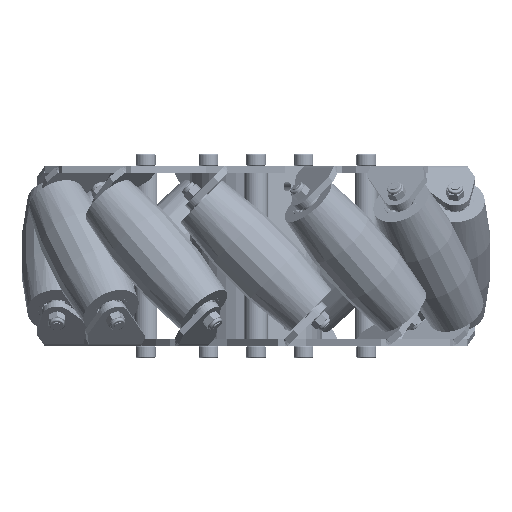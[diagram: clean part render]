
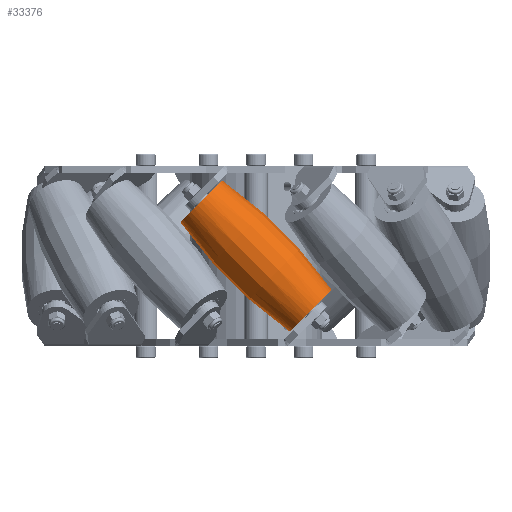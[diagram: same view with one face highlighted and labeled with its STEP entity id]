
A CAD part, front view. The second image highlights one B-rep face of the part: STEP entity #33376.
In plain terms, the highlighted face is a revolution surface.
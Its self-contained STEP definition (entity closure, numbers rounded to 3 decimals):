
#33245 = PLANE('',#33246);
#33246 = AXIS2_PLACEMENT_3D('',#33247,#33248,#33249);
#33247 = CARTESIAN_POINT('',(-23.688,94.,-23.688));
#33248 = DIRECTION('',(-0.707,0.,
    -0.707));
#33249 = DIRECTION('',(-0.707,0.,
    0.707));
#33282 = EDGE_CURVE('',#33283,#33285,#33287,.T.);
#33283 = VERTEX_POINT('',#33284);
#33284 = CARTESIAN_POINT('',(-32.736,86.,-14.64));
#33285 = VERTEX_POINT('',#33286);
#33286 = CARTESIAN_POINT('',(-14.64,86.,-32.736));
#33287 = SURFACE_CURVE('',#33288,(#33293,#33300),.PCURVE_S1.);
#33288 = CIRCLE('',#33289,12.796);
#33289 = AXIS2_PLACEMENT_3D('',#33290,#33291,#33292);
#33290 = CARTESIAN_POINT('',(-23.688,86.,-23.688));
#33291 = DIRECTION('',(-0.707,0.,
    -0.707));
#33292 = DIRECTION('',(-0.707,0.,
    0.707));
#33293 = PCURVE('',#33245,#33294);
#33294 = DEFINITIONAL_REPRESENTATION('',(#33295),#33299);
#33295 = CIRCLE('',#33296,12.796);
#33296 = AXIS2_PLACEMENT_2D('',#33297,#33298);
#33297 = CARTESIAN_POINT('',(0.,-8.));
#33298 = DIRECTION('',(1.,0.));
#33299 = ( GEOMETRIC_REPRESENTATION_CONTEXT(2) 
PARAMETRIC_REPRESENTATION_CONTEXT() REPRESENTATION_CONTEXT('2D SPACE',''
  ) );
#33300 = PCURVE('',#33301,#33312);
#33301 = SURFACE_OF_REVOLUTION('',#33302,#33309);
#33302 = B_SPLINE_CURVE_WITH_KNOTS('',5,(#33303,#33304,#33305,#33306,
    #33307,#33308),.UNSPECIFIED.,.F.,.F.,(6,6),(2.975,
    3.309),.PIECEWISE_BEZIER_KNOTS.);
#33303 = CARTESIAN_POINT('',(-14.64,86.,-32.736));
#33304 = CARTESIAN_POINT('',(-3.67,86.,-24.932));
#33305 = CARTESIAN_POINT('',(6.647,86.,-16.211));
#33306 = CARTESIAN_POINT('',(16.211,86.,-6.647));
#33307 = CARTESIAN_POINT('',(24.932,86.,3.67));
#33308 = CARTESIAN_POINT('',(32.736,86.,14.64));
#33309 = AXIS1_PLACEMENT('',#33310,#33311);
#33310 = CARTESIAN_POINT('',(0.,86.,0.)
  );
#33311 = DIRECTION('',(-0.707,0.,
    -0.707));
#33312 = DEFINITIONAL_REPRESENTATION('',(#33313),#33317);
#33313 = LINE('',#33314,#33315);
#33314 = CARTESIAN_POINT('',(3.142,2.975));
#33315 = VECTOR('',#33316,1.);
#33316 = DIRECTION('',(1.,0.));
#33317 = ( GEOMETRIC_REPRESENTATION_CONTEXT(2) 
PARAMETRIC_REPRESENTATION_CONTEXT() REPRESENTATION_CONTEXT('2D SPACE',''
  ) );
#33334 = SURFACE_OF_REVOLUTION('',#33335,#33342);
#33335 = B_SPLINE_CURVE_WITH_KNOTS('',5,(#33336,#33337,#33338,#33339,
    #33340,#33341),.UNSPECIFIED.,.F.,.F.,(6,6),(2.975,
    3.309),.PIECEWISE_BEZIER_KNOTS.);
#33336 = CARTESIAN_POINT('',(-14.64,86.,-32.736));
#33337 = CARTESIAN_POINT('',(-3.67,86.,-24.932));
#33338 = CARTESIAN_POINT('',(6.647,86.,-16.211));
#33339 = CARTESIAN_POINT('',(16.211,86.,-6.647));
#33340 = CARTESIAN_POINT('',(24.932,86.,3.67));
#33341 = CARTESIAN_POINT('',(32.736,86.,14.64));
#33342 = AXIS1_PLACEMENT('',#33343,#33344);
#33343 = CARTESIAN_POINT('',(0.,86.,0.)
  );
#33344 = DIRECTION('',(-0.707,0.,
    -0.707));
#33376 = ADVANCED_FACE('',(#33377),#33301,.F.);
#33377 = FACE_BOUND('',#33378,.F.);
#33378 = EDGE_LOOP('',(#33379,#33403,#33404,#33428));
#33379 = ORIENTED_EDGE('',*,*,#33380,.T.);
#33380 = EDGE_CURVE('',#33381,#33283,#33383,.T.);
#33381 = VERTEX_POINT('',#33382);
#33382 = CARTESIAN_POINT('',(14.64,86.,32.736));
#33383 = SURFACE_CURVE('',#33384,(#33389,#33396),.PCURVE_S1.);
#33384 = CIRCLE('',#33385,201.54);
#33385 = AXIS2_PLACEMENT_3D('',#33386,#33387,#33388);
#33386 = CARTESIAN_POINT('',(131.479,86.,-131.479));
#33387 = DIRECTION('',(0.,-1.,0.));
#33388 = DIRECTION('',(0.,0.,-1.));
#33389 = PCURVE('',#33301,#33390);
#33390 = DEFINITIONAL_REPRESENTATION('',(#33391),#33395);
#33391 = LINE('',#33392,#33393);
#33392 = CARTESIAN_POINT('',(3.142,7.069));
#33393 = VECTOR('',#33394,1.);
#33394 = DIRECTION('',(0.,-1.));
#33395 = ( GEOMETRIC_REPRESENTATION_CONTEXT(2) 
PARAMETRIC_REPRESENTATION_CONTEXT() REPRESENTATION_CONTEXT('2D SPACE',''
  ) );
#33396 = PCURVE('',#33334,#33397);
#33397 = DEFINITIONAL_REPRESENTATION('',(#33398),#33402);
#33398 = LINE('',#33399,#33400);
#33399 = CARTESIAN_POINT('',(3.142,7.069));
#33400 = VECTOR('',#33401,1.);
#33401 = DIRECTION('',(0.,-1.));
#33402 = ( GEOMETRIC_REPRESENTATION_CONTEXT(2) 
PARAMETRIC_REPRESENTATION_CONTEXT() REPRESENTATION_CONTEXT('2D SPACE',''
  ) );
#33403 = ORIENTED_EDGE('',*,*,#33282,.T.);
#33404 = ORIENTED_EDGE('',*,*,#33405,.F.);
#33405 = EDGE_CURVE('',#33406,#33285,#33408,.T.);
#33406 = VERTEX_POINT('',#33407);
#33407 = CARTESIAN_POINT('',(32.736,86.,14.64));
#33408 = SURFACE_CURVE('',#33409,(#33414,#33421),.PCURVE_S1.);
#33409 = CIRCLE('',#33410,201.54);
#33410 = AXIS2_PLACEMENT_3D('',#33411,#33412,#33413);
#33411 = CARTESIAN_POINT('',(-131.479,86.,131.479));
#33412 = DIRECTION('',(0.,1.,0.));
#33413 = DIRECTION('',(0.,0.,1.));
#33414 = PCURVE('',#33301,#33415);
#33415 = DEFINITIONAL_REPRESENTATION('',(#33416),#33420);
#33416 = LINE('',#33417,#33418);
#33417 = CARTESIAN_POINT('',(6.283,5.498));
#33418 = VECTOR('',#33419,1.);
#33419 = DIRECTION('',(0.,-1.));
#33420 = ( GEOMETRIC_REPRESENTATION_CONTEXT(2) 
PARAMETRIC_REPRESENTATION_CONTEXT() REPRESENTATION_CONTEXT('2D SPACE',''
  ) );
#33421 = PCURVE('',#33334,#33422);
#33422 = DEFINITIONAL_REPRESENTATION('',(#33423),#33427);
#33423 = LINE('',#33424,#33425);
#33424 = CARTESIAN_POINT('',(0.,5.498));
#33425 = VECTOR('',#33426,1.);
#33426 = DIRECTION('',(0.,-1.));
#33427 = ( GEOMETRIC_REPRESENTATION_CONTEXT(2) 
PARAMETRIC_REPRESENTATION_CONTEXT() REPRESENTATION_CONTEXT('2D SPACE',''
  ) );
#33428 = ORIENTED_EDGE('',*,*,#33429,.F.);
#33429 = EDGE_CURVE('',#33381,#33406,#33430,.T.);
#33430 = SURFACE_CURVE('',#33431,(#33436,#33443),.PCURVE_S1.);
#33431 = CIRCLE('',#33432,12.796);
#33432 = AXIS2_PLACEMENT_3D('',#33433,#33434,#33435);
#33433 = CARTESIAN_POINT('',(23.688,86.,23.688));
#33434 = DIRECTION('',(-0.707,0.,
    -0.707));
#33435 = DIRECTION('',(-0.707,0.,
    0.707));
#33436 = PCURVE('',#33301,#33437);
#33437 = DEFINITIONAL_REPRESENTATION('',(#33438),#33442);
#33438 = LINE('',#33439,#33440);
#33439 = CARTESIAN_POINT('',(3.142,3.309));
#33440 = VECTOR('',#33441,1.);
#33441 = DIRECTION('',(1.,0.));
#33442 = ( GEOMETRIC_REPRESENTATION_CONTEXT(2) 
PARAMETRIC_REPRESENTATION_CONTEXT() REPRESENTATION_CONTEXT('2D SPACE',''
  ) );
#33443 = PCURVE('',#33444,#33449);
#33444 = PLANE('',#33445);
#33445 = AXIS2_PLACEMENT_3D('',#33446,#33447,#33448);
#33446 = CARTESIAN_POINT('',(23.688,94.,23.688));
#33447 = DIRECTION('',(0.707,0.,0.707
    ));
#33448 = DIRECTION('',(0.707,0.,-0.707
    ));
#33449 = DEFINITIONAL_REPRESENTATION('',(#33450),#33458);
#33450 = ( BOUNDED_CURVE() B_SPLINE_CURVE(2,(#33451,#33452,#33453,#33454
    ,#33455,#33456,#33457),.UNSPECIFIED.,.T.,.F.) 
B_SPLINE_CURVE_WITH_KNOTS((1,2,2,2,2,1),(-2.094,0.,
    2.094,4.189,6.283,8.378),
.UNSPECIFIED.) CURVE() GEOMETRIC_REPRESENTATION_ITEM() 
RATIONAL_B_SPLINE_CURVE((1.,0.5,1.,0.5,1.,0.5,1.)) REPRESENTATION_ITEM(
  '') );
#33451 = CARTESIAN_POINT('',(-12.796,-8.));
#33452 = CARTESIAN_POINT('',(-12.796,14.164));
#33453 = CARTESIAN_POINT('',(6.398,3.082));
#33454 = CARTESIAN_POINT('',(25.593,-8.));
#33455 = CARTESIAN_POINT('',(6.398,-19.082));
#33456 = CARTESIAN_POINT('',(-12.796,-30.164));
#33457 = CARTESIAN_POINT('',(-12.796,-8.));
#33458 = ( GEOMETRIC_REPRESENTATION_CONTEXT(2) 
PARAMETRIC_REPRESENTATION_CONTEXT() REPRESENTATION_CONTEXT('2D SPACE',''
  ) );
